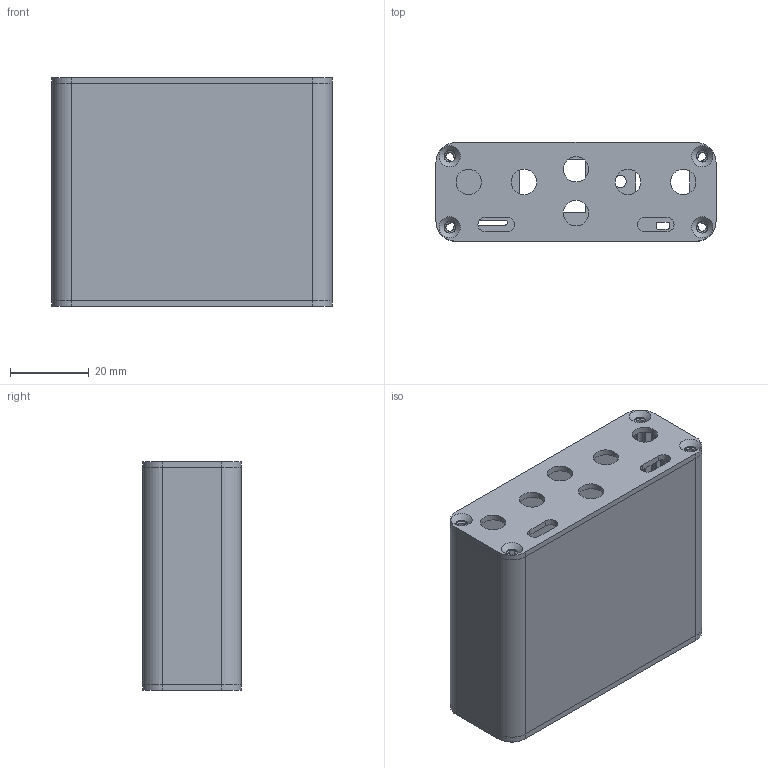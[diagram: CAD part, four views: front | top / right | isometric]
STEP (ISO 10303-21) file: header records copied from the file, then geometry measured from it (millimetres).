
FILE_DESCRIPTION(('1801077468984115200'),'2;1');
FILE_NAME('1801077468984115200','2025-02-17T07:13:13',('Gilles Foucault' ),('UJF'),'Open CASCADE STEP processor 7.6', 'STEP CAF CONTROL WRITER','Unknown');
FILE_SCHEMA(('AUTOMOTIVE_DESIGN { 1 0 10303 214 1 1 1 1 }'));
Length unit declared in the file: millimetre
Products named in the file (6): ASSEMBLY; SOLID
Assembly tree (3 placements, depth 2):
  ASSEMBLY
    SOLID
  ASSEMBLY
    SOLID
  ASSEMBLY
    SOLID
Bounding box: 71 x 25 x 58 mm (x, y, z)
Volume: 23746.1 mm3; surface area: 29494.2 mm2
Topology: 3 solids, 3 shells, 194 faces, 561 edges, 373 vertices
Faces by surface type: plane 92, cylinder 86, cone 16
Full cylindrical faces by diameter (mm): 2.9 x8, 3.1 x6, 6.42 x6
Entity records: 17728 total; most frequent: CARTESIAN_POINT 6678, DIRECTION 1988, LINE 1124, VECTOR 1124, ORIENTED_EDGE 1122, PCURVE 1122, DEFINITIONAL_REPRESENTATION 1122, EDGE_CURVE 561
